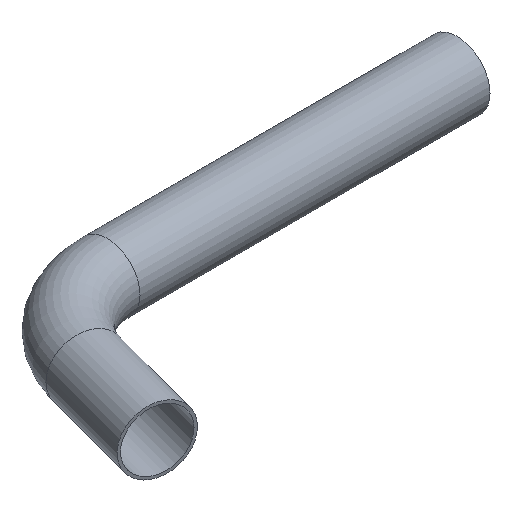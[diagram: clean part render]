
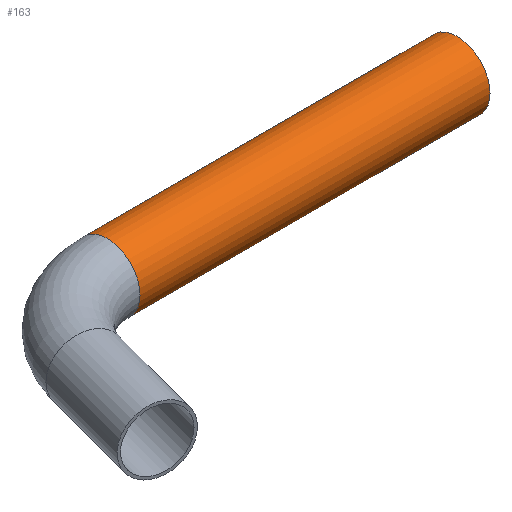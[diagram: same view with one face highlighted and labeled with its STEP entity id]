
A CAD part, isometric view. The second image highlights one B-rep face of the part: STEP entity #163.
In plain terms, the highlighted cylindrical face has radius 17.5 mm (diameter 35 mm), a full revolution.
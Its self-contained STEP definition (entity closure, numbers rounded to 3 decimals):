
#136=CARTESIAN_POINT('',(0.,50.0,0.0));
#137=DIRECTION('',(1.0,0.,0.0));
#138=DIRECTION('',(0.0,-1.0,0.0));
#139=AXIS2_PLACEMENT_3D('',#136,#137,#138);
#140=CYLINDRICAL_SURFACE('',#139,17.5);
#141=CARTESIAN_POINT('',(186.634,67.5,0.));
#142=VERTEX_POINT('',#141);
#143=CARTESIAN_POINT('',(186.634,50.,0.0));
#144=DIRECTION('',(-1.0,0.0,0.0));
#145=DIRECTION('',(0.0,-1.0,0.0));
#146=AXIS2_PLACEMENT_3D('',#143,#144,#145);
#147=CIRCLE('',#146,17.5);
#148=EDGE_CURVE('',#142,#142,#147,.T.);
#149=ORIENTED_EDGE('',*,*,#148,.T.);
#150=EDGE_LOOP('',(#149));
#151=FACE_OUTER_BOUND('',#150,.T.);
#152=CARTESIAN_POINT('',(0.,67.5,0.));
#153=VERTEX_POINT('',#152);
#154=CARTESIAN_POINT('',(0.,50.0,0.0));
#155=DIRECTION('',(-1.0,0.0,0.0));
#156=DIRECTION('',(0.0,-1.0,0.0));
#157=AXIS2_PLACEMENT_3D('',#154,#155,#156);
#158=CIRCLE('',#157,17.5);
#159=EDGE_CURVE('',#153,#153,#158,.T.);
#160=ORIENTED_EDGE('',*,*,#159,.F.);
#161=EDGE_LOOP('',(#160));
#162=FACE_BOUND('',#161,.T.);
#163=ADVANCED_FACE('',(#151,#162),#140,.T.);
